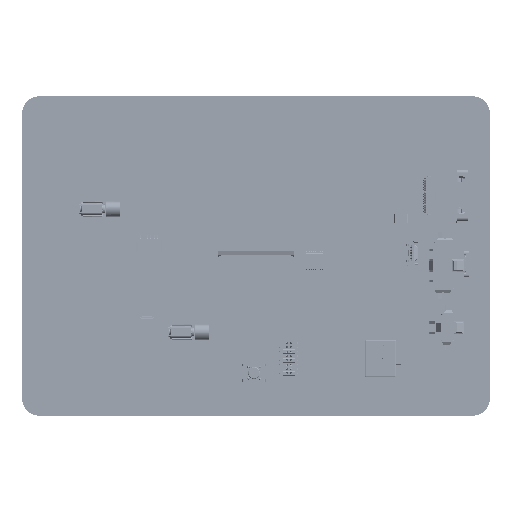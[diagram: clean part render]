
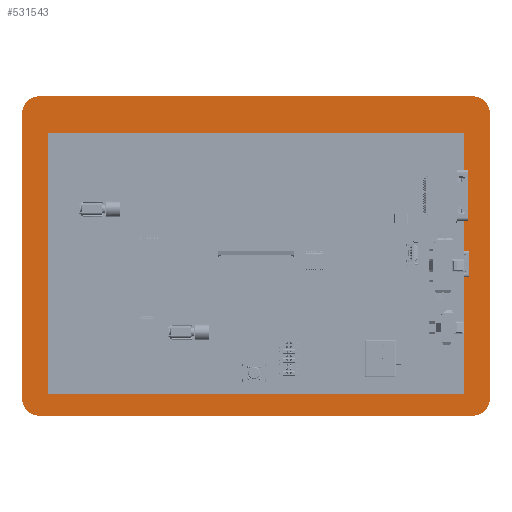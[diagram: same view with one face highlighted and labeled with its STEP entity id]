
A CAD part, top view. The second image highlights one B-rep face of the part: STEP entity #531543.
In plain terms, the highlighted planar face has unit normal (0, 0, 1) as drawn and (0, 0, -1) by its records, which use the part's own axes.
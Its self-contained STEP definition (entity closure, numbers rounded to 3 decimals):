
#5277 = FACE_OUTER_BOUND ( 'NONE', #571584, .T. ) ;
#14143 = ORIENTED_EDGE ( 'NONE', *, *, #394407, .F. ) ;
#14535 = EDGE_CURVE ( 'NONE', #133646, #494978, #299915, .T. ) ;
#23100 = VERTEX_POINT ( 'NONE', #449632 ) ;
#33567 = CARTESIAN_POINT ( 'NONE',  ( 63., -46.4, 0. ) ) ;
#51163 = CARTESIAN_POINT ( 'NONE',  ( -63., 41.4, 0. ) ) ;
#84390 = CARTESIAN_POINT ( 'NONE',  ( 68., -41.4, 0. ) ) ;
#88257 = CARTESIAN_POINT ( 'NONE',  ( -63., 46.4, 0. ) ) ;
#94385 = CARTESIAN_POINT ( 'NONE',  ( -68., 41.4, 0. ) ) ;
#95146 = EDGE_CURVE ( 'NONE', #524678, #133646, #561066, .T. ) ;
#97708 = VERTEX_POINT ( 'NONE', #552794 ) ;
#101753 = DIRECTION ( 'NONE',  ( 0., 1., 0. ) ) ;
#115368 = PLANE ( 'NONE',  #207522 ) ;
#133646 = VERTEX_POINT ( 'NONE', #242459 ) ;
#147175 = DIRECTION ( 'NONE',  ( 1., 0., 0. ) ) ;
#161324 = DIRECTION ( 'NONE',  ( 1., 0., 0. ) ) ;
#165032 = VECTOR ( 'NONE', #101753, 1000. ) ;
#172865 = CARTESIAN_POINT ( 'NONE',  ( -63., 46.4, 0. ) ) ;
#175759 = EDGE_CURVE ( 'NONE', #259056, #23100, #404984, .T. ) ;
#177291 = AXIS2_PLACEMENT_3D ( 'NONE', #295413, #535351, #147175 ) ;
#188919 = ORIENTED_EDGE ( 'NONE', *, *, #403195, .F. ) ;
#190122 = ORIENTED_EDGE ( 'NONE', *, *, #592377, .F. ) ;
#193365 = DIRECTION ( 'NONE',  ( 1., 0., 0. ) ) ;
#195865 = VECTOR ( 'NONE', #522420, 1000. ) ;
#207522 = AXIS2_PLACEMENT_3D ( 'NONE', #491287, #601764, #161324 ) ;
#216705 = CIRCLE ( 'NONE', #586044, 5. ) ;
#216894 = AXIS2_PLACEMENT_3D ( 'NONE', #51163, #437456, #193365 ) ;
#224523 = LINE ( 'NONE', #88257, #247188 ) ;
#229373 = DIRECTION ( 'NONE',  ( 1., 0., 0. ) ) ;
#232728 = CARTESIAN_POINT ( 'NONE',  ( -63., -41.4, 0. ) ) ;
#242459 = CARTESIAN_POINT ( 'NONE',  ( 68., 41.4, 0. ) ) ;
#242840 = VERTEX_POINT ( 'NONE', #172865 ) ;
#244209 = AXIS2_PLACEMENT_3D ( 'NONE', #281582, #519495, #229373 ) ;
#244391 = ORIENTED_EDGE ( 'NONE', *, *, #175759, .F. ) ;
#245022 = DIRECTION ( 'NONE',  ( 0., 0., 1. ) ) ;
#247188 = VECTOR ( 'NONE', #514237, 1000. ) ;
#257452 = VECTOR ( 'NONE', #262590, 1000. ) ;
#259056 = VERTEX_POINT ( 'NONE', #604229 ) ;
#262590 = DIRECTION ( 'NONE',  ( 1., 0., 0. ) ) ;
#270261 = CIRCLE ( 'NONE', #216894, 5. ) ;
#281582 = CARTESIAN_POINT ( 'NONE',  ( 63., -41.4, 0. ) ) ;
#284809 = VERTEX_POINT ( 'NONE', #33567 ) ;
#295413 = CARTESIAN_POINT ( 'NONE',  ( 63., 41.4, 0. ) ) ;
#299915 = CIRCLE ( 'NONE', #177291, 5. ) ;
#304563 = ORIENTED_EDGE ( 'NONE', *, *, #562138, .F. ) ;
#335368 = CIRCLE ( 'NONE', #244209, 5. ) ;
#347227 = LINE ( 'NONE', #548528, #257452 ) ;
#391258 = DIRECTION ( 'NONE',  ( 1., 0., 0. ) ) ;
#394407 = EDGE_CURVE ( 'NONE', #97708, #284809, #347227, .T. ) ;
#403195 = EDGE_CURVE ( 'NONE', #242840, #259056, #270261, .T. ) ;
#404984 = LINE ( 'NONE', #94385, #195865 ) ;
#433536 = ORIENTED_EDGE ( 'NONE', *, *, #95146, .F. ) ;
#437456 = DIRECTION ( 'NONE',  ( 0., 0., 1. ) ) ;
#449632 = CARTESIAN_POINT ( 'NONE',  ( -68., -41.4, 0. ) ) ;
#463184 = CARTESIAN_POINT ( 'NONE',  ( 63., 46.4, 0. ) ) ;
#491287 = CARTESIAN_POINT ( 'NONE',  ( -63., 41.4, 0. ) ) ;
#494978 = VERTEX_POINT ( 'NONE', #463184 ) ;
#514237 = DIRECTION ( 'NONE',  ( -1., 0., 0. ) ) ;
#519495 = DIRECTION ( 'NONE',  ( 0., 0., 1. ) ) ;
#522420 = DIRECTION ( 'NONE',  ( 0., -1., 0. ) ) ;
#524678 = VERTEX_POINT ( 'NONE', #84390 ) ;
#530553 = EDGE_CURVE ( 'NONE', #494978, #242840, #224523, .T. ) ;
#531543 = ADVANCED_FACE ( 'NONE', ( #5277 ), #115368, .F. ) ;
#535351 = DIRECTION ( 'NONE',  ( 0., 0., 1. ) ) ;
#548528 = CARTESIAN_POINT ( 'NONE',  ( -63., -46.4, 0. ) ) ;
#552794 = CARTESIAN_POINT ( 'NONE',  ( -63., -46.4, 0. ) ) ;
#561066 = LINE ( 'NONE', #575694, #165032 ) ;
#562138 = EDGE_CURVE ( 'NONE', #23100, #97708, #216705, .T. ) ;
#571584 = EDGE_LOOP ( 'NONE', ( #188919, #616472, #592736, #433536, #190122, #14143, #304563, #244391 ) ) ;
#575694 = CARTESIAN_POINT ( 'NONE',  ( 68., 41.4, 0. ) ) ;
#586044 = AXIS2_PLACEMENT_3D ( 'NONE', #232728, #245022, #391258 ) ;
#592377 = EDGE_CURVE ( 'NONE', #284809, #524678, #335368, .T. ) ;
#592736 = ORIENTED_EDGE ( 'NONE', *, *, #14535, .F. ) ;
#601764 = DIRECTION ( 'NONE',  ( 0., 0., 1. ) ) ;
#604229 = CARTESIAN_POINT ( 'NONE',  ( -68., 41.4, 0. ) ) ;
#616472 = ORIENTED_EDGE ( 'NONE', *, *, #530553, .F. ) ;
